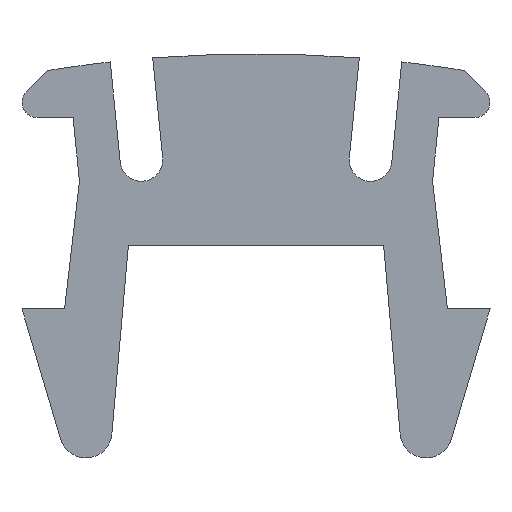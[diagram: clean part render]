
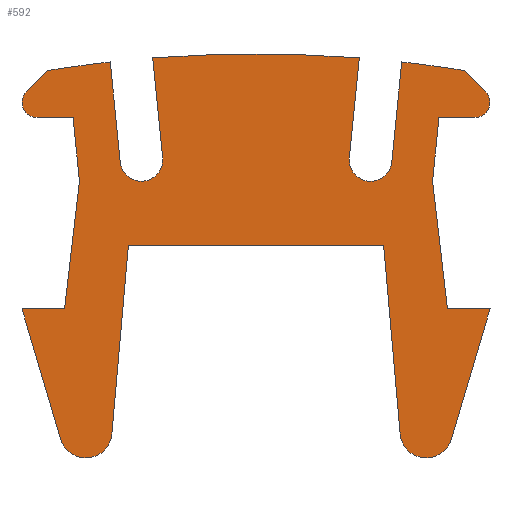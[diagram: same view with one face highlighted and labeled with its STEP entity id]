
A CAD part, left-side view. The second image highlights one B-rep face of the part: STEP entity #592.
In plain terms, the highlighted planar face has unit normal (-1, 0, 0).
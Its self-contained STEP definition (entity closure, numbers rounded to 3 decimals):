
#35=PLANE('',#660);
#65=FACE_OUTER_BOUND('',#95,.T.);
#95=EDGE_LOOP('',(#526,#527,#528,#529,#530,#531,#532,#533,#534,#535,#536,
#537,#538,#539,#540,#541,#542,#543,#544,#545,#546,#547,#548,#549,#550,#551,
#552,#553));
#100=LINE('',#846,#166);
#104=LINE('',#858,#170);
#108=LINE('',#869,#174);
#110=LINE('',#873,#176);
#114=LINE('',#885,#180);
#118=LINE('',#897,#184);
#122=LINE('',#909,#188);
#125=LINE('',#915,#191);
#128=LINE('',#921,#194);
#131=LINE('',#927,#197);
#134=LINE('',#933,#200);
#138=LINE('',#945,#204);
#141=LINE('',#951,#207);
#144=LINE('',#957,#210);
#148=LINE('',#969,#214);
#151=LINE('',#975,#217);
#154=LINE('',#981,#220);
#157=LINE('',#987,#223);
#160=LINE('',#992,#226);
#166=VECTOR('',#681,1000.);
#170=VECTOR('',#693,1000.);
#174=VECTOR('',#705,1000.);
#176=VECTOR('',#709,1000.);
#180=VECTOR('',#721,1000.);
#184=VECTOR('',#733,1000.);
#188=VECTOR('',#745,1000.);
#191=VECTOR('',#750,1000.);
#194=VECTOR('',#755,1000.);
#197=VECTOR('',#760,1000.);
#200=VECTOR('',#765,1000.);
#204=VECTOR('',#777,1000.);
#207=VECTOR('',#782,1000.);
#210=VECTOR('',#787,1000.);
#214=VECTOR('',#799,1000.);
#217=VECTOR('',#804,1000.);
#220=VECTOR('',#809,1000.);
#223=VECTOR('',#814,1000.);
#226=VECTOR('',#819,1000.);
#229=CIRCLE('',#615,30.5);
#230=CIRCLE('',#617,0.354);
#232=CIRCLE('',#621,30.5);
#234=CIRCLE('',#625,0.5);
#236=CIRCLE('',#630,0.5);
#238=CIRCLE('',#634,30.5);
#240=CIRCLE('',#638,0.354);
#242=CIRCLE('',#646,0.615);
#244=CIRCLE('',#652,0.615);
#248=VERTEX_POINT('',#830);
#249=VERTEX_POINT('',#832);
#250=VERTEX_POINT('',#836);
#251=VERTEX_POINT('',#837);
#254=VERTEX_POINT('',#845);
#256=VERTEX_POINT('',#851);
#258=VERTEX_POINT('',#857);
#260=VERTEX_POINT('',#863);
#262=VERTEX_POINT('',#872);
#264=VERTEX_POINT('',#878);
#266=VERTEX_POINT('',#884);
#268=VERTEX_POINT('',#890);
#270=VERTEX_POINT('',#896);
#272=VERTEX_POINT('',#902);
#274=VERTEX_POINT('',#908);
#276=VERTEX_POINT('',#914);
#278=VERTEX_POINT('',#920);
#280=VERTEX_POINT('',#926);
#282=VERTEX_POINT('',#932);
#284=VERTEX_POINT('',#938);
#286=VERTEX_POINT('',#944);
#288=VERTEX_POINT('',#950);
#290=VERTEX_POINT('',#956);
#292=VERTEX_POINT('',#962);
#294=VERTEX_POINT('',#968);
#296=VERTEX_POINT('',#974);
#298=VERTEX_POINT('',#980);
#300=VERTEX_POINT('',#986);
#304=EDGE_CURVE('',#248,#249,#229,.T.);
#306=EDGE_CURVE('',#250,#251,#230,.T.);
#310=EDGE_CURVE('',#251,#254,#100,.T.);
#313=EDGE_CURVE('',#254,#256,#232,.T.);
#316=EDGE_CURVE('',#256,#258,#104,.T.);
#319=EDGE_CURVE('',#258,#260,#234,.T.);
#322=EDGE_CURVE('',#260,#248,#108,.T.);
#324=EDGE_CURVE('',#249,#262,#110,.T.);
#327=EDGE_CURVE('',#262,#264,#236,.T.);
#330=EDGE_CURVE('',#264,#266,#114,.T.);
#333=EDGE_CURVE('',#266,#268,#238,.T.);
#336=EDGE_CURVE('',#268,#270,#118,.T.);
#339=EDGE_CURVE('',#270,#272,#240,.T.);
#342=EDGE_CURVE('',#272,#274,#122,.T.);
#345=EDGE_CURVE('',#274,#276,#125,.T.);
#348=EDGE_CURVE('',#276,#278,#128,.T.);
#351=EDGE_CURVE('',#278,#280,#131,.T.);
#354=EDGE_CURVE('',#280,#282,#134,.T.);
#357=EDGE_CURVE('',#282,#284,#242,.T.);
#360=EDGE_CURVE('',#284,#286,#138,.T.);
#363=EDGE_CURVE('',#286,#288,#141,.T.);
#366=EDGE_CURVE('',#288,#290,#144,.T.);
#369=EDGE_CURVE('',#290,#292,#244,.T.);
#372=EDGE_CURVE('',#292,#294,#148,.T.);
#375=EDGE_CURVE('',#294,#296,#151,.T.);
#378=EDGE_CURVE('',#296,#298,#154,.T.);
#381=EDGE_CURVE('',#298,#300,#157,.T.);
#384=EDGE_CURVE('',#300,#250,#160,.T.);
#526=ORIENTED_EDGE('',*,*,#306,.F.);
#527=ORIENTED_EDGE('',*,*,#384,.F.);
#528=ORIENTED_EDGE('',*,*,#381,.F.);
#529=ORIENTED_EDGE('',*,*,#378,.F.);
#530=ORIENTED_EDGE('',*,*,#375,.F.);
#531=ORIENTED_EDGE('',*,*,#372,.F.);
#532=ORIENTED_EDGE('',*,*,#369,.F.);
#533=ORIENTED_EDGE('',*,*,#366,.F.);
#534=ORIENTED_EDGE('',*,*,#363,.F.);
#535=ORIENTED_EDGE('',*,*,#360,.F.);
#536=ORIENTED_EDGE('',*,*,#357,.F.);
#537=ORIENTED_EDGE('',*,*,#354,.F.);
#538=ORIENTED_EDGE('',*,*,#351,.F.);
#539=ORIENTED_EDGE('',*,*,#348,.F.);
#540=ORIENTED_EDGE('',*,*,#345,.F.);
#541=ORIENTED_EDGE('',*,*,#342,.F.);
#542=ORIENTED_EDGE('',*,*,#339,.F.);
#543=ORIENTED_EDGE('',*,*,#336,.F.);
#544=ORIENTED_EDGE('',*,*,#333,.F.);
#545=ORIENTED_EDGE('',*,*,#330,.F.);
#546=ORIENTED_EDGE('',*,*,#327,.F.);
#547=ORIENTED_EDGE('',*,*,#324,.F.);
#548=ORIENTED_EDGE('',*,*,#304,.F.);
#549=ORIENTED_EDGE('',*,*,#322,.F.);
#550=ORIENTED_EDGE('',*,*,#319,.F.);
#551=ORIENTED_EDGE('',*,*,#316,.F.);
#552=ORIENTED_EDGE('',*,*,#313,.F.);
#553=ORIENTED_EDGE('',*,*,#310,.F.);
#592=ADVANCED_FACE('',(#65),#35,.F.);
#615=AXIS2_PLACEMENT_3D('',#833,#668,#669);
#617=AXIS2_PLACEMENT_3D('',#838,#673,#674);
#621=AXIS2_PLACEMENT_3D('',#852,#686,#687);
#625=AXIS2_PLACEMENT_3D('',#864,#698,#699);
#630=AXIS2_PLACEMENT_3D('',#879,#714,#715);
#634=AXIS2_PLACEMENT_3D('',#891,#726,#727);
#638=AXIS2_PLACEMENT_3D('',#903,#738,#739);
#646=AXIS2_PLACEMENT_3D('',#939,#770,#771);
#652=AXIS2_PLACEMENT_3D('',#963,#792,#793);
#660=AXIS2_PLACEMENT_3D('',#995,#823,#824);
#668=DIRECTION('center_axis',(1.,0.,0.));
#669=DIRECTION('ref_axis',(0.,0.,-1.));
#673=DIRECTION('center_axis',(1.,0.,0.));
#674=DIRECTION('ref_axis',(0.,0.,-1.));
#681=DIRECTION('',(0.,-0.707,0.707));
#686=DIRECTION('center_axis',(1.,0.,0.));
#687=DIRECTION('ref_axis',(0.,0.,-1.));
#693=DIRECTION('',(0.,-0.1,-0.995));
#698=DIRECTION('center_axis',(-1.,0.,0.));
#699=DIRECTION('ref_axis',(0.,0.,-1.));
#705=DIRECTION('',(0.,0.1,0.995));
#709=DIRECTION('',(0.,0.1,-0.995));
#714=DIRECTION('center_axis',(-1.,0.,0.));
#715=DIRECTION('ref_axis',(0.,0.,-1.));
#721=DIRECTION('',(0.,-0.1,0.995));
#726=DIRECTION('center_axis',(1.,0.,0.));
#727=DIRECTION('ref_axis',(0.,0.,-1.));
#733=DIRECTION('',(0.,-0.707,-0.707));
#738=DIRECTION('center_axis',(1.,0.,0.));
#739=DIRECTION('ref_axis',(0.,0.,-1.));
#745=DIRECTION('',(0.,1.,0.));
#750=DIRECTION('',(0.,0.1,-0.995));
#755=DIRECTION('',(0.,-0.116,-0.993));
#760=DIRECTION('',(0.,-1.,0.));
#765=DIRECTION('',(0.,0.285,-0.958));
#770=DIRECTION('center_axis',(1.,0.,0.));
#771=DIRECTION('ref_axis',(0.,0.,-1.));
#777=DIRECTION('',(0.,0.087,0.996));
#782=DIRECTION('',(0.,1.,0.));
#787=DIRECTION('',(0.,0.087,-0.996));
#792=DIRECTION('center_axis',(1.,0.,0.));
#793=DIRECTION('ref_axis',(0.,0.,-1.));
#799=DIRECTION('',(0.,0.285,0.958));
#804=DIRECTION('',(0.,-1.,0.));
#809=DIRECTION('',(0.,-0.116,0.993));
#814=DIRECTION('',(0.,0.1,0.995));
#819=DIRECTION('',(0.,1.,0.));
#823=DIRECTION('center_axis',(1.,0.,0.));
#824=DIRECTION('ref_axis',(0.,0.,-1.));
#830=CARTESIAN_POINT('',(0.,2.43,4.403));
#832=CARTESIAN_POINT('',(0.,-2.43,4.403));
#833=CARTESIAN_POINT('Origin',(0.,0.,-26.));
#836=CARTESIAN_POINT('',(0.,5.146,3.));
#837=CARTESIAN_POINT('',(0.,5.396,3.604));
#838=CARTESIAN_POINT('Origin',(0.,5.146,3.354));
#845=CARTESIAN_POINT('',(0.,4.895,4.105));
#846=CARTESIAN_POINT('',(0.,5.396,3.604));
#851=CARTESIAN_POINT('',(0.,3.426,4.307));
#852=CARTESIAN_POINT('Origin',(0.,0.,-26.));
#857=CARTESIAN_POINT('',(0.,3.19,1.951));
#858=CARTESIAN_POINT('',(0.,3.19,1.951));
#863=CARTESIAN_POINT('',(0.,2.195,2.05));
#864=CARTESIAN_POINT('Origin',(0.,2.693,2.001));
#869=CARTESIAN_POINT('',(0.,2.195,2.05));
#872=CARTESIAN_POINT('',(0.,-2.195,2.05));
#873=CARTESIAN_POINT('',(0.,-2.195,2.05));
#878=CARTESIAN_POINT('',(0.,-3.19,1.95));
#879=CARTESIAN_POINT('Origin',(0.,-2.693,2.));
#884=CARTESIAN_POINT('',(0.,-3.426,4.307));
#885=CARTESIAN_POINT('',(0.,-3.19,1.95));
#890=CARTESIAN_POINT('',(0.,-4.895,4.105));
#891=CARTESIAN_POINT('Origin',(0.,0.,-26.));
#896=CARTESIAN_POINT('',(0.,-5.396,3.604));
#897=CARTESIAN_POINT('',(0.,-5.396,3.604));
#902=CARTESIAN_POINT('',(0.,-5.146,3.));
#903=CARTESIAN_POINT('Origin',(0.,-5.146,3.354));
#908=CARTESIAN_POINT('',(0.,-4.3,3.));
#909=CARTESIAN_POINT('',(0.,-5.146,3.));
#914=CARTESIAN_POINT('',(0.,-4.15,1.5));
#915=CARTESIAN_POINT('',(0.,-4.15,1.5));
#920=CARTESIAN_POINT('',(0.,-4.5,-1.5));
#921=CARTESIAN_POINT('',(0.,-4.15,1.5));
#926=CARTESIAN_POINT('',(0.,-5.5,-1.5));
#927=CARTESIAN_POINT('',(0.,-5.5,-1.5));
#932=CARTESIAN_POINT('',(0.,-4.59,-4.56));
#933=CARTESIAN_POINT('',(0.,-5.5,-1.5));
#938=CARTESIAN_POINT('',(0.,-3.387,-4.438));
#939=CARTESIAN_POINT('Origin',(0.,-4.,-4.385));
#944=CARTESIAN_POINT('',(0.,-3.,0.));
#945=CARTESIAN_POINT('',(0.,-3.,0.));
#950=CARTESIAN_POINT('',(0.,3.,0.));
#951=CARTESIAN_POINT('',(0.,3.,0.));
#956=CARTESIAN_POINT('',(0.,3.387,-4.438));
#957=CARTESIAN_POINT('',(0.,3.,0.));
#962=CARTESIAN_POINT('',(0.,4.59,-4.56));
#963=CARTESIAN_POINT('Origin',(0.,4.,-4.385));
#968=CARTESIAN_POINT('',(0.,5.5,-1.5));
#969=CARTESIAN_POINT('',(0.,5.5,-1.5));
#974=CARTESIAN_POINT('',(0.,4.5,-1.5));
#975=CARTESIAN_POINT('',(0.,5.5,-1.5));
#980=CARTESIAN_POINT('',(0.,4.15,1.5));
#981=CARTESIAN_POINT('',(0.,4.15,1.5));
#986=CARTESIAN_POINT('',(0.,4.3,3.));
#987=CARTESIAN_POINT('',(0.,4.15,1.5));
#992=CARTESIAN_POINT('',(0.,5.146,3.));
#995=CARTESIAN_POINT('Origin',(0.,5.146,3.354));
